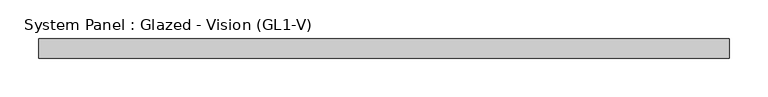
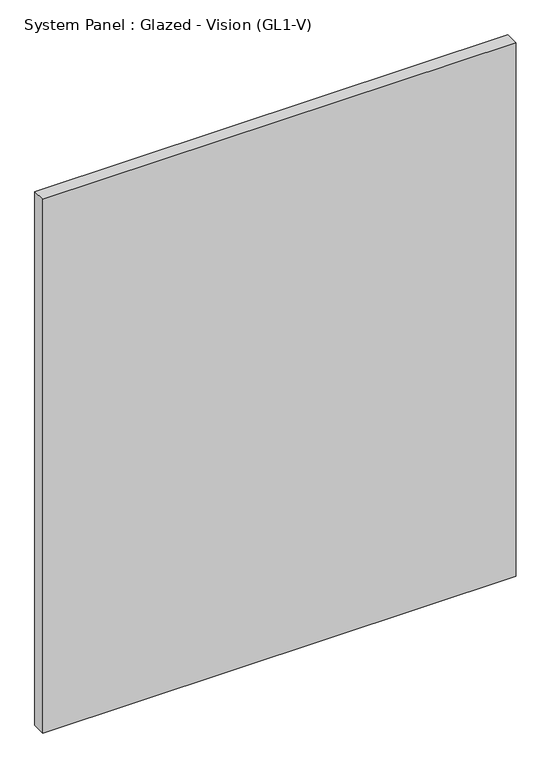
"""IFC4 building model written with IfcOpenShell, lengths in millimetres: plate geometry, System Panel : Glazed - Vision (GL1-V)."""

from ifc_helpers import new_model, si_unit, origin, origin_with_axes, place, context, project, spatial, polyline, outline, extrude, source, transform, mapped, element, save


def system_panel_glazed_vision_gl1_v_bcf45d55(model_context):
    return source(origin(), model_context, "Body", "SweptSolid", [
        extrude(outline(polyline([(447.675, 0.0), (-447.675, 0.0), (-447.675, 25.4), (447.675, 25.4), (447.675, 0.0)])), origin_with_axes(), (0.0, 0.0, 1.0), 1066.8000012),
    ])


if __name__ == "__main__":
    model = new_model("IFC4")
    model_context = context("Model", 3, world=origin())
    ifc_project = project(units=[si_unit("LENGTHUNIT", "METRE", prefix="MILLI")], contexts=[model_context])
    site = spatial("IfcSite", under=ifc_project)
    building = spatial("IfcBuilding", under=site)
    placement = place(None, origin())
    system_panel_glazed_vision_gl1_v_shape = system_panel_glazed_vision_gl1_v_bcf45d55(model_context)
    element("IfcPlate", 1, ObjectType="System Panel : Glazed - Vision (GL1-V)", at=placement, inside=building, context=model_context, shape_type="MappedRepresentation", body=[
        mapped(system_panel_glazed_vision_gl1_v_shape, transform((0.0, 0.0, 0.0), x_axis=(1.0, 0.0, 0.0), y_axis=(0.0, 1.0, 0.0), z_axis=(0.0, 0.0, 1.0))),
    ])
    save(model, "model.ifc")
